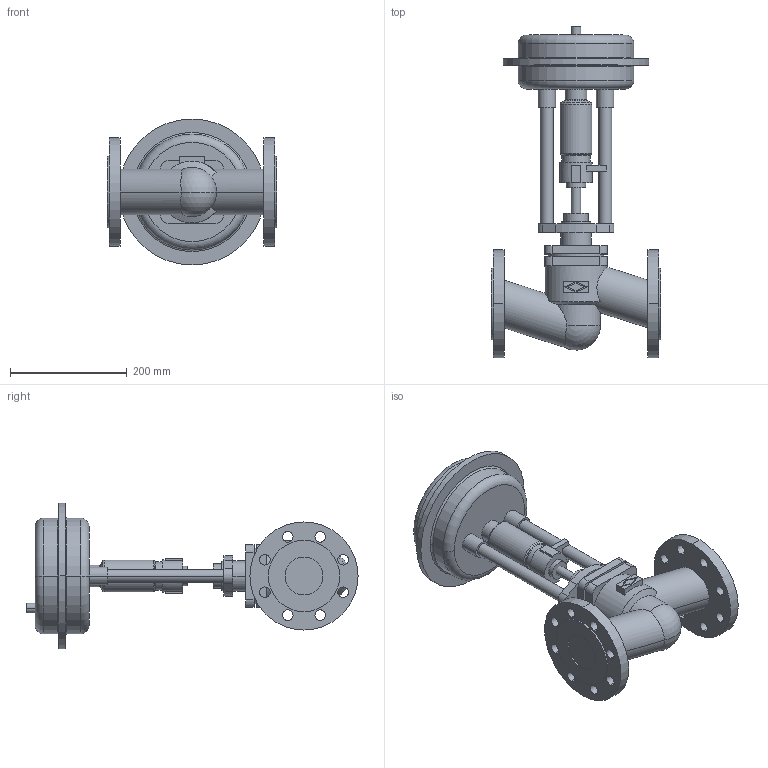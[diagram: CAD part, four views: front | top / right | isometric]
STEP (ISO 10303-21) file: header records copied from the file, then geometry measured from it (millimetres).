
FILE_DESCRIPTION(('OneSpaceDesigner STEP Export'),'2;1');
FILE_NAME('c000001407.stp','2005-02-14T14:04:45',(''),(''),'OneSpace Designer STEP processor (Jan. 2003) for AP203(Solid Model)','OneSpace Designer 12.01D 09-Jul-2004 (C) CoCreate Software GmbH','');
FILE_SCHEMA(('CONFIG_CONTROL_DESIGN'));
Length unit declared in the file: millimetre
Products named in the file (2): 1; 2
Bounding box: 290 x 568.5 x 250 mm (x, y, z)
Volume: 6864752.2 mm3; surface area: 483632 mm2
Topology: 2 solids, 2 shells, 197 faces, 481 edges, 313 vertices
Faces by surface type: cylinder 100, plane 73, torus 16, cone 6, sphere 2
Entity records: 5580 total; most frequent: CARTESIAN_POINT 1131, ORIENTED_EDGE 958, DIRECTION 791, EDGE_CURVE 479, VERTEX_POINT 313, AXIS2_PLACEMENT_3D 288, EDGE_LOOP 256, VECTOR 215
